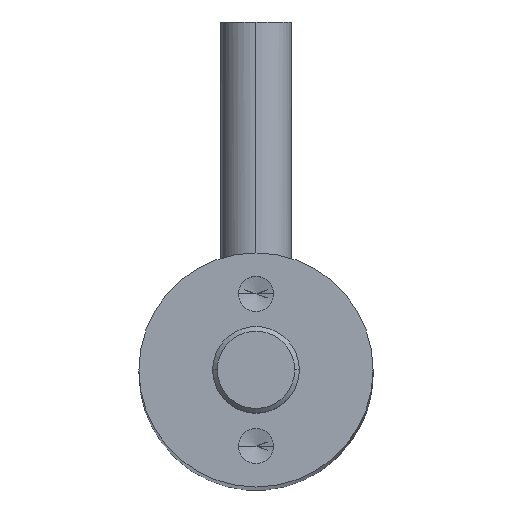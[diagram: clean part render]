
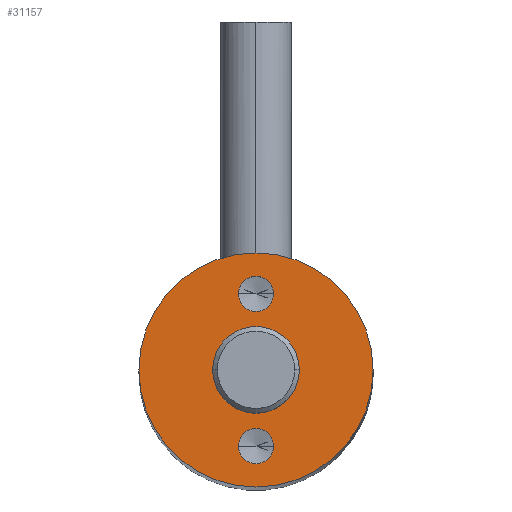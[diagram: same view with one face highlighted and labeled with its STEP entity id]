
A CAD part, top view. The second image highlights one B-rep face of the part: STEP entity #31157.
In plain terms, the highlighted planar face has unit normal (0, 0, 1).
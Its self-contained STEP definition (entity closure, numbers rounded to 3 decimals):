
#614 = EDGE_CURVE ( 'NONE', #13788, #7375, #37068, .T. ) ;
#1034 = ORIENTED_EDGE ( 'NONE', *, *, #25416, .T. ) ;
#1108 = DIRECTION ( 'NONE',  ( 1., 0., 0. ) ) ;
#1562 = ORIENTED_EDGE ( 'NONE', *, *, #22587, .F. ) ;
#1830 = VERTEX_POINT ( 'NONE', #35154 ) ;
#1838 = AXIS2_PLACEMENT_3D ( 'NONE', #6794, #36567, #1108 ) ;
#2784 = DIRECTION ( 'NONE',  ( 0., 0., 1. ) ) ;
#3547 = DIRECTION ( 'NONE',  ( 1., 0., 0. ) ) ;
#4152 = CARTESIAN_POINT ( 'NONE',  ( -0.75, -3.25, 82.5 ) ) ;
#4421 = FACE_BOUND ( 'NONE', #37977, .T. ) ;
#5245 = ORIENTED_EDGE ( 'NONE', *, *, #36065, .F. ) ;
#5833 = VERTEX_POINT ( 'NONE', #19773 ) ;
#6112 = CARTESIAN_POINT ( 'NONE',  ( -1.85, 0., 82.5 ) ) ;
#6559 = AXIS2_PLACEMENT_3D ( 'NONE', #7740, #10477, #19273 ) ;
#6709 = FACE_OUTER_BOUND ( 'NONE', #29684, .T. ) ;
#6794 = CARTESIAN_POINT ( 'NONE',  ( 0., 0., 82.5 ) ) ;
#7375 = VERTEX_POINT ( 'NONE', #4152 ) ;
#7740 = CARTESIAN_POINT ( 'NONE',  ( 0., 0., 82.5 ) ) ;
#9695 = VERTEX_POINT ( 'NONE', #6112 ) ;
#10176 = CARTESIAN_POINT ( 'NONE',  ( 0., 0., 82.5 ) ) ;
#10208 = EDGE_CURVE ( 'NONE', #10900, #5833, #15268, .T. ) ;
#10345 = EDGE_LOOP ( 'NONE', ( #17293, #5245 ) ) ;
#10477 = DIRECTION ( 'NONE',  ( 0., 0., 1. ) ) ;
#10900 = VERTEX_POINT ( 'NONE', #22574 ) ;
#11080 = CARTESIAN_POINT ( 'NONE',  ( 0., 0., 82.5 ) ) ;
#11342 = CARTESIAN_POINT ( 'NONE',  ( 0., 3.25, 82.5 ) ) ;
#11389 = FACE_BOUND ( 'NONE', #21116, .T. ) ;
#11493 = AXIS2_PLACEMENT_3D ( 'NONE', #36163, #12349, #3547 ) ;
#11504 = CIRCLE ( 'NONE', #21127, 0.75 ) ;
#11981 = CARTESIAN_POINT ( 'NONE',  ( 0., -3.25, 82.5 ) ) ;
#12349 = DIRECTION ( 'NONE',  ( 0., 0., 1. ) ) ;
#12429 = EDGE_CURVE ( 'NONE', #9695, #18300, #15233, .T. ) ;
#12578 = CARTESIAN_POINT ( 'NONE',  ( 0., 3.25, 82.5 ) ) ;
#13022 = DIRECTION ( 'NONE',  ( 0., 0., 1. ) ) ;
#13512 = AXIS2_PLACEMENT_3D ( 'NONE', #10176, #16251, #28075 ) ;
#13788 = VERTEX_POINT ( 'NONE', #38378 ) ;
#13823 = CIRCLE ( 'NONE', #32008, 0.75 ) ;
#14315 = DIRECTION ( 'NONE',  ( 1., 0., 0. ) ) ;
#14799 = EDGE_CURVE ( 'NONE', #38410, #1830, #13823, .T. ) ;
#15233 = CIRCLE ( 'NONE', #32239, 1.85 ) ;
#15268 = CIRCLE ( 'NONE', #6559, 5. ) ;
#16251 = DIRECTION ( 'NONE',  ( 0., 0., 1. ) ) ;
#17293 = ORIENTED_EDGE ( 'NONE', *, *, #12429, .F. ) ;
#18300 = VERTEX_POINT ( 'NONE', #30960 ) ;
#19273 = DIRECTION ( 'NONE',  ( 1., 0., 0. ) ) ;
#19773 = CARTESIAN_POINT ( 'NONE',  ( 5., 0., 82.5 ) ) ;
#21116 = EDGE_LOOP ( 'NONE', ( #23477, #29704 ) ) ;
#21127 = AXIS2_PLACEMENT_3D ( 'NONE', #11981, #30026, #33161 ) ;
#22574 = CARTESIAN_POINT ( 'NONE',  ( -5., 0., 82.5 ) ) ;
#22587 = EDGE_CURVE ( 'NONE', #7375, #13788, #11504, .T. ) ;
#23477 = ORIENTED_EDGE ( 'NONE', *, *, #27533, .F. ) ;
#23925 = FACE_BOUND ( 'NONE', #10345, .T. ) ;
#24263 = DIRECTION ( 'NONE',  ( 1., 0., 0. ) ) ;
#25416 = EDGE_CURVE ( 'NONE', #5833, #10900, #27239, .T. ) ;
#25726 = ORIENTED_EDGE ( 'NONE', *, *, #10208, .T. ) ;
#26129 = AXIS2_PLACEMENT_3D ( 'NONE', #33299, #13022, #27939 ) ;
#27239 = CIRCLE ( 'NONE', #11493, 5. ) ;
#27533 = EDGE_CURVE ( 'NONE', #1830, #38410, #27682, .T. ) ;
#27682 = CIRCLE ( 'NONE', #35403, 0.75 ) ;
#27939 = DIRECTION ( 'NONE',  ( 1., 0., 0. ) ) ;
#28075 = DIRECTION ( 'NONE',  ( 1., 0., 0. ) ) ;
#28617 = CARTESIAN_POINT ( 'NONE',  ( -0.75, 3.25, 82.5 ) ) ;
#29684 = EDGE_LOOP ( 'NONE', ( #25726, #1034 ) ) ;
#29704 = ORIENTED_EDGE ( 'NONE', *, *, #14799, .F. ) ;
#30026 = DIRECTION ( 'NONE',  ( 0., 0., 1. ) ) ;
#30542 = ORIENTED_EDGE ( 'NONE', *, *, #614, .F. ) ;
#30947 = PLANE ( 'NONE',  #1838 ) ;
#30960 = CARTESIAN_POINT ( 'NONE',  ( 1.85, 0., 82.5 ) ) ;
#31157 = ADVANCED_FACE ( 'NONE', ( #4421, #11389, #23925, #6709 ), #30947, .T. ) ;
#31863 = DIRECTION ( 'NONE',  ( 0., 0., 1. ) ) ;
#32008 = AXIS2_PLACEMENT_3D ( 'NONE', #11342, #2784, #14315 ) ;
#32239 = AXIS2_PLACEMENT_3D ( 'NONE', #11080, #31863, #37596 ) ;
#33161 = DIRECTION ( 'NONE',  ( 1., 0., 0. ) ) ;
#33299 = CARTESIAN_POINT ( 'NONE',  ( 0., -3.25, 82.5 ) ) ;
#34594 = CIRCLE ( 'NONE', #13512, 1.85 ) ;
#35154 = CARTESIAN_POINT ( 'NONE',  ( 0.75, 3.25, 82.5 ) ) ;
#35403 = AXIS2_PLACEMENT_3D ( 'NONE', #12578, #36495, #24263 ) ;
#36065 = EDGE_CURVE ( 'NONE', #18300, #9695, #34594, .T. ) ;
#36163 = CARTESIAN_POINT ( 'NONE',  ( 0., 0., 82.5 ) ) ;
#36495 = DIRECTION ( 'NONE',  ( 0., 0., 1. ) ) ;
#36567 = DIRECTION ( 'NONE',  ( 0., 0., 1. ) ) ;
#37068 = CIRCLE ( 'NONE', #26129, 0.75 ) ;
#37596 = DIRECTION ( 'NONE',  ( 1., 0., 0. ) ) ;
#37977 = EDGE_LOOP ( 'NONE', ( #30542, #1562 ) ) ;
#38378 = CARTESIAN_POINT ( 'NONE',  ( 0.75, -3.25, 82.5 ) ) ;
#38410 = VERTEX_POINT ( 'NONE', #28617 ) ;
